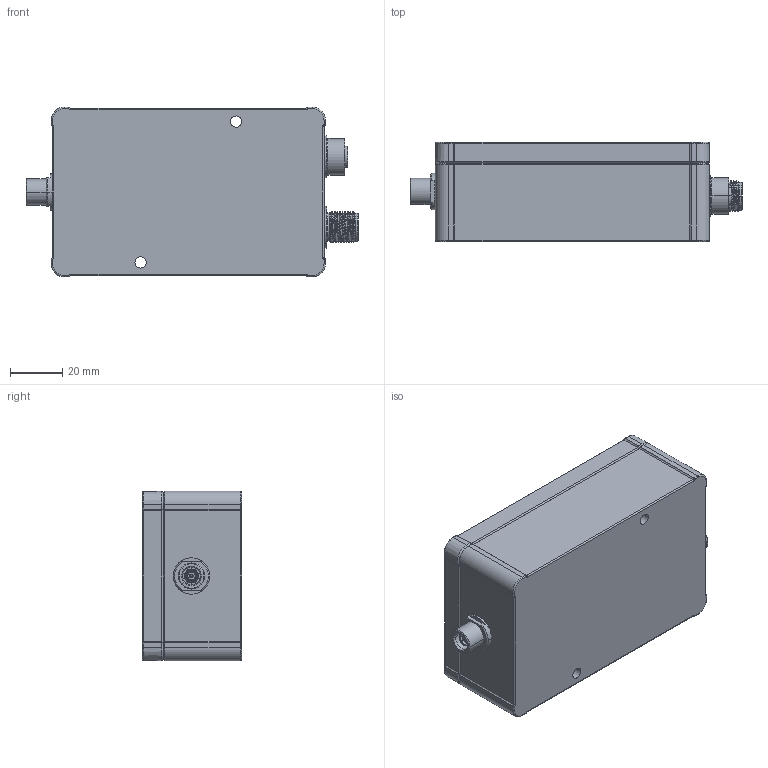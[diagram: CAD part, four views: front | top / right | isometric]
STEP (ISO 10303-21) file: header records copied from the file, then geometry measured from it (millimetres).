
FILE_DESCRIPTION((''),'2;1');
FILE_NAME('0000145207','2018-01-19T',('11000600'),(''),'CREO PARAMETRIC BY PTC INC, 2017170','CREO PARAMETRIC BY PTC INC, 2017170','');
FILE_SCHEMA(('AUTOMOTIVE_DESIGN { 1 0 10303 214 1 1 1 1 }'));
Products named in the file (1): 0000145207
Bounding box: 127.2 x 38 x 65 mm (x, y, z)
Surface area: 32242.7 mm2 (no closed solid volume)
Topology: 0 solids, 2 shells, 2109 faces, 5537 edges, 3570 vertices
Faces by surface type: plane 986, extrusion 583, cylinder 223, cone 151, torus 116, bspline 50
Entity records: 118171 total; most frequent: CARTESIAN_POINT 32013, ORIENTED_EDGE 11070, DIRECTION 8525, PRESENTATION_STYLE_ASSIGNMENT 8228, STYLED_ITEM 6119, CURVE_STYLE 6118, EDGE_CURVE 5535, VECTOR 3941
